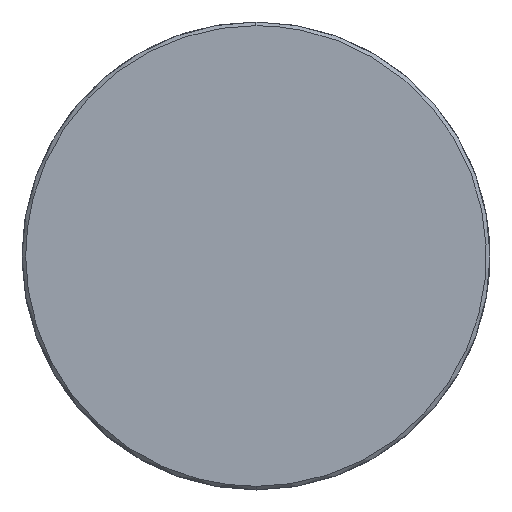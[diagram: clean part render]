
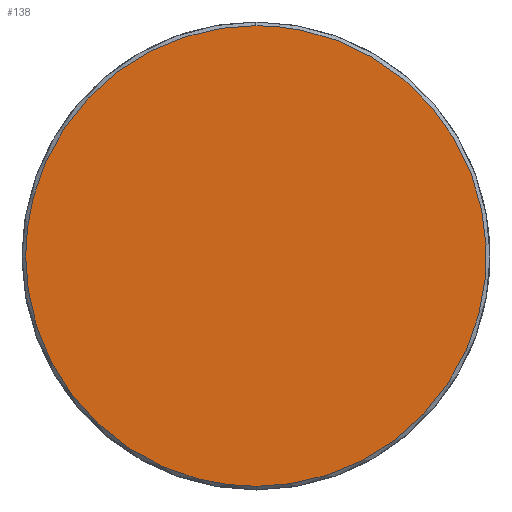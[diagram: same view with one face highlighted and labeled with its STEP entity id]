
A CAD part, left-side view. The second image highlights one B-rep face of the part: STEP entity #138.
In plain terms, the highlighted free-form (B-spline) face has degree [1, 1] with [2, 2] control points.
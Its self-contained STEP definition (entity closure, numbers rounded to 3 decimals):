
#138=ADVANCED_FACE('',(#271),#272,.T.);
#271=FACE_OUTER_BOUND('',#636,.T.);
#272=B_SPLINE_SURFACE_WITH_KNOTS('',1,1,((#637,#638),(#639,#640)),.UNSPECIFIED.,.F.,.F.,.F.,(2,2),(2,2),(0.0,37.45),(0.0,37.45),.UNSPECIFIED.);
#636=EDGE_LOOP('',(#959,#960,#961));
#637=CARTESIAN_POINT('',(-49.,-18.725,-18.725));
#638=CARTESIAN_POINT('',(-49.,18.725,-18.725));
#639=CARTESIAN_POINT('',(-49.,-18.725,18.725));
#640=CARTESIAN_POINT('',(-49.,18.725,18.725));
#959=ORIENTED_EDGE('',*,*,#1073,.T.);
#960=ORIENTED_EDGE('',*,*,#1001,.T.);
#961=ORIENTED_EDGE('',*,*,#1074,.T.);
#1001=EDGE_CURVE('',#1176,#1174,#1177,.T.);
#1073=EDGE_CURVE('',#1286,#1176,#1287,.T.);
#1074=EDGE_CURVE('',#1174,#1286,#1288,.T.);
#1174=VERTEX_POINT('',#1508);
#1176=VERTEX_POINT('',#1511);
#1177=(B_SPLINE_CURVE(2,(#1513,#1514,#1515,#1516,#1517),.UNSPECIFIED.,.F.,.F.)B_SPLINE_CURVE_WITH_KNOTS((3,2,3),(-1.571,0.,1.571),.UNSPECIFIED.)RATIONAL_B_SPLINE_CURVE((1.,0.707,1.0,0.707,1.))BOUNDED_CURVE()REPRESENTATION_ITEM('')GEOMETRIC_REPRESENTATION_ITEM()CURVE());
#1286=VERTEX_POINT('',#1836);
#1287=(B_SPLINE_CURVE(2,(#1838,#1839,#1840),.UNSPECIFIED.,.F.,.F.)B_SPLINE_CURVE_WITH_KNOTS((3,3),(-3.142,-1.571),.UNSPECIFIED.)RATIONAL_B_SPLINE_CURVE((1.0,0.707,1.))BOUNDED_CURVE()REPRESENTATION_ITEM('')GEOMETRIC_REPRESENTATION_ITEM()CURVE());
#1288=(B_SPLINE_CURVE(2,(#1848,#1849,#1850),.UNSPECIFIED.,.F.,.F.)B_SPLINE_CURVE_WITH_KNOTS((3,3),(1.571,3.142),.UNSPECIFIED.)RATIONAL_B_SPLINE_CURVE((1.,0.707,1.0))BOUNDED_CURVE()REPRESENTATION_ITEM('')GEOMETRIC_REPRESENTATION_ITEM()CURVE());
#1508=CARTESIAN_POINT('',(-49.,0.,18.725));
#1511=CARTESIAN_POINT('',(-49.,0.,-18.725));
#1513=CARTESIAN_POINT('',(-49.,0.,-18.725));
#1514=CARTESIAN_POINT('',(-49.,-18.725,-18.725));
#1515=CARTESIAN_POINT('',(-49.,-18.725,0.));
#1516=CARTESIAN_POINT('',(-49.,-18.725,18.725));
#1517=CARTESIAN_POINT('',(-49.,0.,18.725));
#1836=CARTESIAN_POINT('',(-49.,18.725,0.));
#1838=CARTESIAN_POINT('',(-49.0,18.725,0.));
#1839=CARTESIAN_POINT('',(-49.,18.725,-18.725));
#1840=CARTESIAN_POINT('',(-49.,0.,-18.725));
#1848=CARTESIAN_POINT('',(-49.,0.,18.725));
#1849=CARTESIAN_POINT('',(-49.,18.725,18.725));
#1850=CARTESIAN_POINT('',(-49.,18.725,0.));
